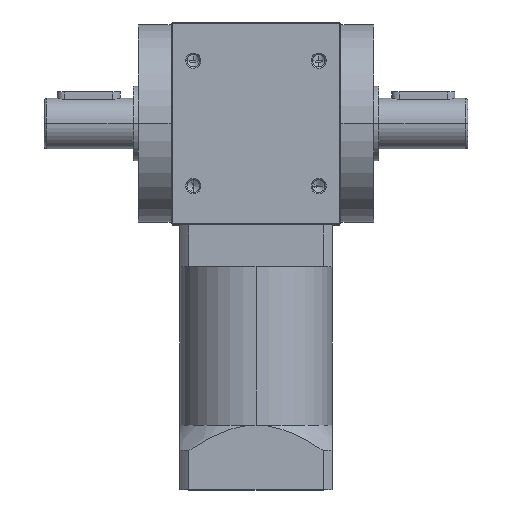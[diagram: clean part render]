
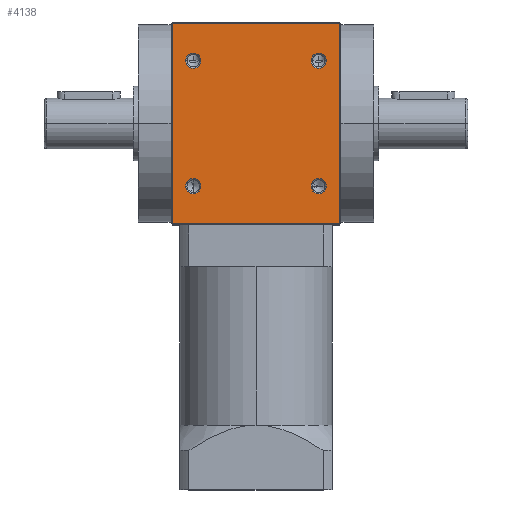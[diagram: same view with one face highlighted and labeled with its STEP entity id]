
A CAD part, top view. The second image highlights one B-rep face of the part: STEP entity #4138.
In plain terms, the highlighted planar face has unit normal (0, 0, 1).
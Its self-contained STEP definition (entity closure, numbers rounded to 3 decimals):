
#37 = EDGE_CURVE ( 'NONE', #898, #4030, #8069, .T. ) ;
#67 = DIRECTION ( 'NONE',  ( 1., 0., 0. ) ) ;
#80 = DIRECTION ( 'NONE',  ( 0., 0., 1. ) ) ;
#84 = CARTESIAN_POINT ( 'NONE',  ( -33., -39.5, 40. ) ) ;
#93 = CARTESIAN_POINT ( 'NONE',  ( -24.75, -24.75, 40. ) ) ;
#276 = AXIS2_PLACEMENT_3D ( 'NONE', #4018, #4000, #3978 ) ;
#285 = CIRCLE ( 'NONE', #9556, 3. ) ;
#348 = EDGE_LOOP ( 'NONE', ( #3259, #2071 ) ) ;
#431 = VERTEX_POINT ( 'NONE', #526 ) ;
#469 = EDGE_CURVE ( 'NONE', #4854, #7796, #4704, .T. ) ;
#471 = EDGE_LOOP ( 'NONE', ( #8248, #2180 ) ) ;
#526 = CARTESIAN_POINT ( 'NONE',  ( 21.75, -24.75, 40. ) ) ;
#546 = DIRECTION ( 'NONE',  ( 1., 0., 0. ) ) ;
#596 = CARTESIAN_POINT ( 'NONE',  ( -24.75, 24.75, 40. ) ) ;
#898 = VERTEX_POINT ( 'NONE', #5371 ) ;
#1259 = ORIENTED_EDGE ( 'NONE', *, *, #37, .F. ) ;
#1276 = FACE_BOUND ( 'NONE', #348, .T. ) ;
#1403 = CIRCLE ( 'NONE', #5747, 3. ) ;
#1407 = DIRECTION ( 'NONE',  ( 1., 0., 0. ) ) ;
#1607 = EDGE_CURVE ( 'NONE', #7796, #4854, #3635, .T. ) ;
#1751 = CARTESIAN_POINT ( 'NONE',  ( -27.75, 24.75, 40. ) ) ;
#1989 = EDGE_CURVE ( 'NONE', #7192, #6828, #4954, .T. ) ;
#2071 = ORIENTED_EDGE ( 'NONE', *, *, #6317, .F. ) ;
#2119 = DIRECTION ( 'NONE',  ( 0., 0., 1. ) ) ;
#2180 = ORIENTED_EDGE ( 'NONE', *, *, #1607, .F. ) ;
#2280 = LINE ( 'NONE', #6834, #6010 ) ;
#2516 = AXIS2_PLACEMENT_3D ( 'NONE', #8490, #8519, #8387 ) ;
#2700 = EDGE_CURVE ( 'NONE', #7228, #2886, #8487, .T. ) ;
#2709 = CIRCLE ( 'NONE', #5116, 3. ) ;
#2745 = CARTESIAN_POINT ( 'NONE',  ( 27.75, -24.75, 40. ) ) ;
#2886 = VERTEX_POINT ( 'NONE', #5577 ) ;
#2924 = DIRECTION ( 'NONE',  ( -1., 0., 0. ) ) ;
#3249 = DIRECTION ( 'NONE',  ( 0., 1., 0. ) ) ;
#3259 = ORIENTED_EDGE ( 'NONE', *, *, #8556, .F. ) ;
#3446 = CIRCLE ( 'NONE', #8987, 3. ) ;
#3635 = CIRCLE ( 'NONE', #2516, 3. ) ;
#3668 = VECTOR ( 'NONE', #4964, 1000. ) ;
#3676 = FACE_BOUND ( 'NONE', #471, .T. ) ;
#3679 = CARTESIAN_POINT ( 'NONE',  ( -33., 40., 40. ) ) ;
#3733 = VERTEX_POINT ( 'NONE', #2745 ) ;
#3978 = DIRECTION ( 'NONE',  ( 1., 0., 0. ) ) ;
#4000 = DIRECTION ( 'NONE',  ( 0., 0., 1. ) ) ;
#4018 = CARTESIAN_POINT ( 'NONE',  ( 24.75, 24.75, 40. ) ) ;
#4030 = VERTEX_POINT ( 'NONE', #9180 ) ;
#4138 = ADVANCED_FACE ( 'NONE', ( #3676, #1276, #9356, #6268, #6864 ), #4817, .F. ) ;
#4139 = CARTESIAN_POINT ( 'NONE',  ( -27.75, -24.75, 40. ) ) ;
#4248 = CARTESIAN_POINT ( 'NONE',  ( -21.75, -24.75, 40. ) ) ;
#4365 = ORIENTED_EDGE ( 'NONE', *, *, #1989, .F. ) ;
#4391 = DIRECTION ( 'NONE',  ( -1., 0., 0. ) ) ;
#4450 = EDGE_CURVE ( 'NONE', #4030, #898, #1403, .T. ) ;
#4469 = DIRECTION ( 'NONE',  ( 0., 0., -1. ) ) ;
#4502 = CARTESIAN_POINT ( 'NONE',  ( 33.5, 40., 40. ) ) ;
#4704 = CIRCLE ( 'NONE', #8385, 3. ) ;
#4817 = PLANE ( 'NONE',  #8168 ) ;
#4854 = VERTEX_POINT ( 'NONE', #4248 ) ;
#4874 = VERTEX_POINT ( 'NONE', #9407 ) ;
#4954 = LINE ( 'NONE', #5305, #3668 ) ;
#4964 = DIRECTION ( 'NONE',  ( 0., -1., 0. ) ) ;
#5116 = AXIS2_PLACEMENT_3D ( 'NONE', #6850, #2119, #7619 ) ;
#5305 = CARTESIAN_POINT ( 'NONE',  ( 33., 40., 40. ) ) ;
#5348 = DIRECTION ( 'NONE',  ( 0., 0., 1. ) ) ;
#5371 = CARTESIAN_POINT ( 'NONE',  ( 21.75, 24.75, 40. ) ) ;
#5544 = EDGE_CURVE ( 'NONE', #6828, #7228, #7399, .T. ) ;
#5545 = CIRCLE ( 'NONE', #5902, 3. ) ;
#5577 = CARTESIAN_POINT ( 'NONE',  ( -33., 39.5, 40. ) ) ;
#5747 = AXIS2_PLACEMENT_3D ( 'NONE', #6042, #7350, #7649 ) ;
#5812 = DIRECTION ( 'NONE',  ( 1., 0., 0. ) ) ;
#5880 = DIRECTION ( 'NONE',  ( 0., 0., 1. ) ) ;
#5893 = CARTESIAN_POINT ( 'NONE',  ( 33., -39.5, 40. ) ) ;
#5902 = AXIS2_PLACEMENT_3D ( 'NONE', #596, #6176, #1407 ) ;
#5917 = CARTESIAN_POINT ( 'NONE',  ( 24.75, -24.75, 40. ) ) ;
#6010 = VECTOR ( 'NONE', #2924, 1000. ) ;
#6042 = CARTESIAN_POINT ( 'NONE',  ( 24.75, 24.75, 40. ) ) ;
#6176 = DIRECTION ( 'NONE',  ( 0., 0., 1. ) ) ;
#6268 = FACE_BOUND ( 'NONE', #9764, .T. ) ;
#6317 = EDGE_CURVE ( 'NONE', #431, #3733, #285, .T. ) ;
#6341 = DIRECTION ( 'NONE',  ( -1., 0., 0. ) ) ;
#6828 = VERTEX_POINT ( 'NONE', #5893 ) ;
#6834 = CARTESIAN_POINT ( 'NONE',  ( 33.5, 39.5, 40. ) ) ;
#6850 = CARTESIAN_POINT ( 'NONE',  ( 24.75, -24.75, 40. ) ) ;
#6864 = FACE_OUTER_BOUND ( 'NONE', #8103, .T. ) ;
#7192 = VERTEX_POINT ( 'NONE', #8671 ) ;
#7228 = VERTEX_POINT ( 'NONE', #84 ) ;
#7320 = ORIENTED_EDGE ( 'NONE', *, *, #9441, .F. ) ;
#7350 = DIRECTION ( 'NONE',  ( 0., 0., 1. ) ) ;
#7399 = LINE ( 'NONE', #10070, #9398 ) ;
#7619 = DIRECTION ( 'NONE',  ( 1., 0., 0. ) ) ;
#7628 = EDGE_CURVE ( 'NONE', #7822, #4874, #3446, .T. ) ;
#7649 = DIRECTION ( 'NONE',  ( 1., 0., 0. ) ) ;
#7796 = VERTEX_POINT ( 'NONE', #4139 ) ;
#7822 = VERTEX_POINT ( 'NONE', #1751 ) ;
#8044 = ORIENTED_EDGE ( 'NONE', *, *, #2700, .F. ) ;
#8069 = CIRCLE ( 'NONE', #276, 3. ) ;
#8103 = EDGE_LOOP ( 'NONE', ( #8393, #8044, #9653, #4365 ) ) ;
#8168 = AXIS2_PLACEMENT_3D ( 'NONE', #4502, #4469, #4391 ) ;
#8248 = ORIENTED_EDGE ( 'NONE', *, *, #469, .F. ) ;
#8385 = AXIS2_PLACEMENT_3D ( 'NONE', #93, #80, #67 ) ;
#8387 = DIRECTION ( 'NONE',  ( 1., 0., 0. ) ) ;
#8393 = ORIENTED_EDGE ( 'NONE', *, *, #9970, .T. ) ;
#8487 = LINE ( 'NONE', #3679, #8543 ) ;
#8490 = CARTESIAN_POINT ( 'NONE',  ( -24.75, -24.75, 40. ) ) ;
#8519 = DIRECTION ( 'NONE',  ( 0., 0., 1. ) ) ;
#8543 = VECTOR ( 'NONE', #3249, 1000. ) ;
#8556 = EDGE_CURVE ( 'NONE', #3733, #431, #2709, .T. ) ;
#8596 = ORIENTED_EDGE ( 'NONE', *, *, #4450, .F. ) ;
#8671 = CARTESIAN_POINT ( 'NONE',  ( 33., 39.5, 40. ) ) ;
#8824 = EDGE_LOOP ( 'NONE', ( #8596, #1259 ) ) ;
#8987 = AXIS2_PLACEMENT_3D ( 'NONE', #9914, #5348, #546 ) ;
#9180 = CARTESIAN_POINT ( 'NONE',  ( 27.75, 24.75, 40. ) ) ;
#9356 = FACE_BOUND ( 'NONE', #8824, .T. ) ;
#9398 = VECTOR ( 'NONE', #6341, 1000. ) ;
#9407 = CARTESIAN_POINT ( 'NONE',  ( -21.75, 24.75, 40. ) ) ;
#9441 = EDGE_CURVE ( 'NONE', #4874, #7822, #5545, .T. ) ;
#9556 = AXIS2_PLACEMENT_3D ( 'NONE', #5917, #5880, #5812 ) ;
#9653 = ORIENTED_EDGE ( 'NONE', *, *, #5544, .F. ) ;
#9764 = EDGE_LOOP ( 'NONE', ( #7320, #10109 ) ) ;
#9914 = CARTESIAN_POINT ( 'NONE',  ( -24.75, 24.75, 40. ) ) ;
#9970 = EDGE_CURVE ( 'NONE', #7192, #2886, #2280, .T. ) ;
#10070 = CARTESIAN_POINT ( 'NONE',  ( 33.5, -39.5, 40. ) ) ;
#10109 = ORIENTED_EDGE ( 'NONE', *, *, #7628, .F. ) ;
